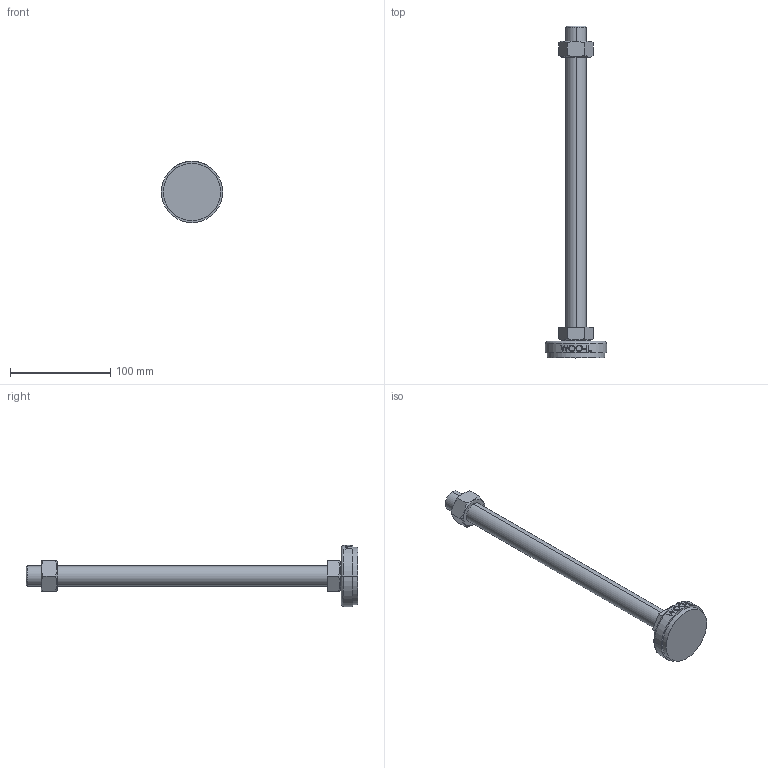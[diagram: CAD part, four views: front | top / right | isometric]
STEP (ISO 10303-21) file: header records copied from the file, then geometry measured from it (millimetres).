
FILE_DESCRIPTION (( 'STEP AP214' ), '1' );
FILE_NAME ('NS61-M20-300.step', '2021-01-11T05:47:06', ( '' ), ( '' ), 'SwSTEP 2.0', 'SolidWorks 2019', '' );
FILE_SCHEMA (( 'AUTOMOTIVE_DESIGN' ));
Length unit declared in the file: millimetre
Products named in the file (2): NS61-M20-300
Bounding box: 61 x 330.5 x 61 mm (x, y, z)
Volume: 158380.2 mm3; surface area: 33976.9 mm2
Topology: 3 solids, 3 shells, 96 faces, 223 edges, 144 vertices
Faces by surface type: plane 48, cylinder 18, bspline 16, cone 12, torus 2
Entity records: 4264 total; most frequent: CARTESIAN_POINT 2139, ORIENTED_EDGE 446, DIRECTION 381, EDGE_CURVE 223, VERTEX_POINT 144, AXIS2_PLACEMENT_3D 142, EDGE_LOOP 109, LINE 97
